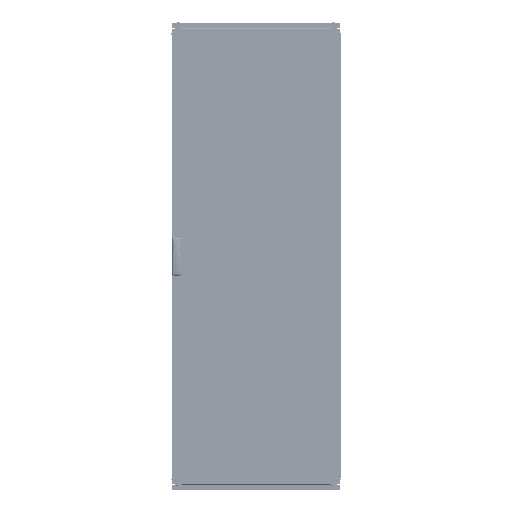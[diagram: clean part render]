
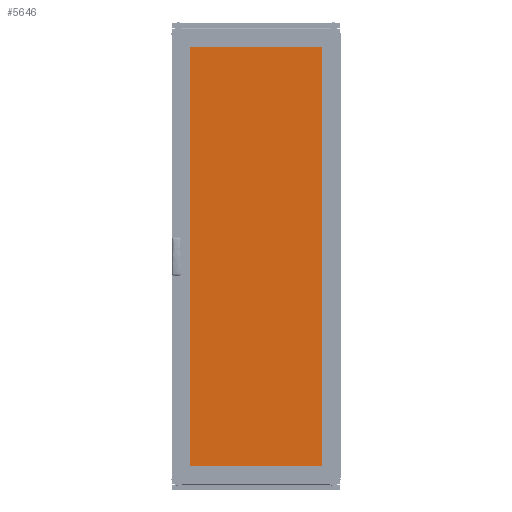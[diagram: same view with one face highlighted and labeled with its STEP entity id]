
A CAD part, top view. The second image highlights one B-rep face of the part: STEP entity #5646.
In plain terms, the highlighted planar face has unit normal (0, 0, 1).
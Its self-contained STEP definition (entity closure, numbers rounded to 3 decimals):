
#5646 = ADVANCED_FACE ( 'NONE', ( #88309 ), #66849, .F. ) ;
#9844 = DIRECTION ( 'NONE',  ( 0., 1., 0. ) ) ;
#14825 = LINE ( 'NONE', #87773, #91074 ) ;
#32477 = VECTOR ( 'NONE', #9844, 1000. ) ;
#33027 = VERTEX_POINT ( 'NONE', #163355 ) ;
#34471 = DIRECTION ( 'NONE',  ( 0., 0., -1. ) ) ;
#36328 = EDGE_CURVE ( 'NONE', #33027, #41951, #14825, .T. ) ;
#41951 = VERTEX_POINT ( 'NONE', #222225 ) ;
#43142 = VERTEX_POINT ( 'NONE', #228015 ) ;
#51707 = LINE ( 'NONE', #214373, #211379 ) ;
#60387 = ORIENTED_EDGE ( 'NONE', *, *, #36328, .T. ) ;
#66849 = PLANE ( 'NONE',  #83387 ) ;
#83387 = AXIS2_PLACEMENT_3D ( 'NONE', #139811, #34471, #142166 ) ;
#87773 = CARTESIAN_POINT ( 'NONE',  ( -330., -1010., 5. ) ) ;
#88309 = FACE_OUTER_BOUND ( 'NONE', #116625, .T. ) ;
#89894 = DIRECTION ( 'NONE',  ( -1., 0., 0. ) ) ;
#91074 = VECTOR ( 'NONE', #233735, 1000. ) ;
#104133 = CARTESIAN_POINT ( 'NONE',  ( 330., -1010., 5. ) ) ;
#116625 = EDGE_LOOP ( 'NONE', ( #139016, #167503, #60387, #141713 ) ) ;
#118640 = LINE ( 'NONE', #191619, #32477 ) ;
#123120 = VERTEX_POINT ( 'NONE', #104133 ) ;
#139016 = ORIENTED_EDGE ( 'NONE', *, *, #228670, .T. ) ;
#139811 = CARTESIAN_POINT ( 'NONE',  ( 0., 0., 5. ) ) ;
#141713 = ORIENTED_EDGE ( 'NONE', *, *, #171641, .T. ) ;
#142166 = DIRECTION ( 'NONE',  ( -1., 0., 0. ) ) ;
#163355 = CARTESIAN_POINT ( 'NONE',  ( -330., 1010., 5. ) ) ;
#165779 = EDGE_CURVE ( 'NONE', #43142, #33027, #51707, .T. ) ;
#167503 = ORIENTED_EDGE ( 'NONE', *, *, #165779, .T. ) ;
#171641 = EDGE_CURVE ( 'NONE', #41951, #123120, #232143, .T. ) ;
#191619 = CARTESIAN_POINT ( 'NONE',  ( 330., -1010., 5. ) ) ;
#193859 = CARTESIAN_POINT ( 'NONE',  ( -330., -1010., 5. ) ) ;
#211379 = VECTOR ( 'NONE', #89894, 1000. ) ;
#212970 = DIRECTION ( 'NONE',  ( 1., 0., 0. ) ) ;
#214373 = CARTESIAN_POINT ( 'NONE',  ( -330., 1010., 5. ) ) ;
#216625 = VECTOR ( 'NONE', #212970, 1000. ) ;
#222225 = CARTESIAN_POINT ( 'NONE',  ( -330., -1010., 5. ) ) ;
#228015 = CARTESIAN_POINT ( 'NONE',  ( 330., 1010., 5. ) ) ;
#228670 = EDGE_CURVE ( 'NONE', #123120, #43142, #118640, .T. ) ;
#232143 = LINE ( 'NONE', #193859, #216625 ) ;
#233735 = DIRECTION ( 'NONE',  ( 0., -1., 0. ) ) ;
